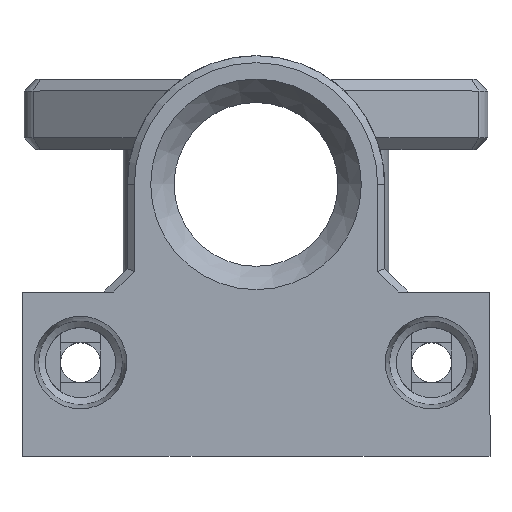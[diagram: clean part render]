
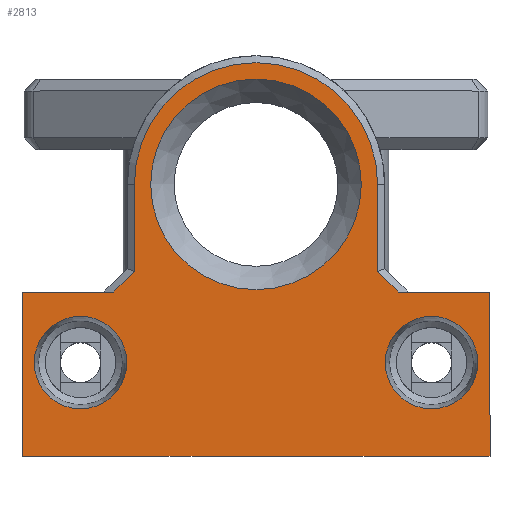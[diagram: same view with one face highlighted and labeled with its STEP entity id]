
A CAD part, top view. The second image highlights one B-rep face of the part: STEP entity #2813.
In plain terms, the highlighted planar face has unit normal (0, 0, 1).
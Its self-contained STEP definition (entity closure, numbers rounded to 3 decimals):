
#28=FACE_BOUND('',#456,.T.);
#29=FACE_BOUND('',#457,.T.);
#30=FACE_BOUND('',#458,.T.);
#163=PLANE('',#3075);
#293=FACE_OUTER_BOUND('',#455,.T.);
#455=EDGE_LOOP('',(#2378,#2379,#2380,#2381,#2382,#2383,#2384,#2385,#2386,
#2387));
#456=EDGE_LOOP('',(#2388));
#457=EDGE_LOOP('',(#2389));
#458=EDGE_LOOP('',(#2390));
#639=LINE('',#4527,#873);
#703=LINE('',#4721,#937);
#704=LINE('',#4722,#938);
#705=LINE('',#4724,#939);
#706=LINE('',#4726,#940);
#707=LINE('',#4728,#941);
#708=LINE('',#4730,#942);
#709=LINE('',#4734,#943);
#710=LINE('',#4735,#944);
#873=VECTOR('',#3544,10.);
#937=VECTOR('',#3740,10.);
#938=VECTOR('',#3741,10.);
#939=VECTOR('',#3742,10.);
#940=VECTOR('',#3743,10.);
#941=VECTOR('',#3744,10.);
#942=VECTOR('',#3745,10.);
#943=VECTOR('',#3748,10.);
#944=VECTOR('',#3749,10.);
#1045=CIRCLE('',#3023,3.952);
#1048=CIRCLE('',#3028,3.952);
#1067=CIRCLE('',#3071,9.);
#1070=CIRCLE('',#3076,10.4);
#1293=VERTEX_POINT('',#4524);
#1294=VERTEX_POINT('',#4526);
#1306=VERTEX_POINT('',#4561);
#1309=VERTEX_POINT('',#4571);
#1354=VERTEX_POINT('',#4709);
#1357=VERTEX_POINT('',#4719);
#1358=VERTEX_POINT('',#4720);
#1359=VERTEX_POINT('',#4723);
#1360=VERTEX_POINT('',#4725);
#1361=VERTEX_POINT('',#4727);
#1362=VERTEX_POINT('',#4729);
#1363=VERTEX_POINT('',#4731);
#1364=VERTEX_POINT('',#4733);
#1633=EDGE_CURVE('',#1294,#1293,#639,.T.);
#1649=EDGE_CURVE('',#1306,#1306,#1045,.T.);
#1654=EDGE_CURVE('',#1309,#1309,#1048,.T.);
#1723=EDGE_CURVE('',#1354,#1354,#1067,.T.);
#1728=EDGE_CURVE('',#1357,#1358,#703,.T.);
#1729=EDGE_CURVE('',#1358,#1294,#704,.T.);
#1730=EDGE_CURVE('',#1293,#1359,#705,.T.);
#1731=EDGE_CURVE('',#1359,#1360,#706,.T.);
#1732=EDGE_CURVE('',#1361,#1360,#707,.T.);
#1733=EDGE_CURVE('',#1362,#1361,#708,.T.);
#1734=EDGE_CURVE('',#1363,#1362,#1070,.T.);
#1735=EDGE_CURVE('',#1364,#1363,#709,.T.);
#1736=EDGE_CURVE('',#1357,#1364,#710,.T.);
#2378=ORIENTED_EDGE('',*,*,#1728,.T.);
#2379=ORIENTED_EDGE('',*,*,#1729,.T.);
#2380=ORIENTED_EDGE('',*,*,#1633,.T.);
#2381=ORIENTED_EDGE('',*,*,#1730,.T.);
#2382=ORIENTED_EDGE('',*,*,#1731,.T.);
#2383=ORIENTED_EDGE('',*,*,#1732,.F.);
#2384=ORIENTED_EDGE('',*,*,#1733,.F.);
#2385=ORIENTED_EDGE('',*,*,#1734,.F.);
#2386=ORIENTED_EDGE('',*,*,#1735,.F.);
#2387=ORIENTED_EDGE('',*,*,#1736,.F.);
#2388=ORIENTED_EDGE('',*,*,#1649,.T.);
#2389=ORIENTED_EDGE('',*,*,#1654,.T.);
#2390=ORIENTED_EDGE('',*,*,#1723,.F.);
#2813=ADVANCED_FACE('',(#293,#28,#29,#30),#163,.T.);
#3023=AXIS2_PLACEMENT_3D('',#4562,#3580,#3581);
#3028=AXIS2_PLACEMENT_3D('',#4572,#3592,#3593);
#3071=AXIS2_PLACEMENT_3D('',#4710,#3728,#3729);
#3075=AXIS2_PLACEMENT_3D('',#4718,#3738,#3739);
#3076=AXIS2_PLACEMENT_3D('',#4732,#3746,#3747);
#3544=DIRECTION('',(1.,0.,0.));
#3580=DIRECTION('center_axis',(0.,0.,-1.));
#3581=DIRECTION('ref_axis',(1.,0.,0.));
#3592=DIRECTION('center_axis',(0.,0.,-1.));
#3593=DIRECTION('ref_axis',(-1.,0.,0.));
#3728=DIRECTION('center_axis',(0.,0.,1.));
#3729=DIRECTION('ref_axis',(-1.,0.,0.));
#3738=DIRECTION('center_axis',(0.,0.,1.));
#3739=DIRECTION('ref_axis',(-1.,0.,0.));
#3740=DIRECTION('',(-1.,0.,0.));
#3741=DIRECTION('',(0.,-1.,0.));
#3742=DIRECTION('',(0.,1.,0.));
#3743=DIRECTION('',(-1.,0.,0.));
#3744=DIRECTION('',(0.707,-0.707,0.));
#3745=DIRECTION('',(0.,-1.,0.));
#3746=DIRECTION('center_axis',(0.,0.,-1.));
#3747=DIRECTION('ref_axis',(-1.,0.,0.));
#3748=DIRECTION('',(0.,1.,0.));
#3749=DIRECTION('',(0.707,0.707,0.));
#4524=CARTESIAN_POINT('',(0.,-42.533,42.875));
#4526=CARTESIAN_POINT('',(-40.,-42.533,42.875));
#4527=CARTESIAN_POINT('',(-40.,-42.533,42.875));
#4561=CARTESIAN_POINT('',(-8.952,-34.533,42.875));
#4562=CARTESIAN_POINT('Origin',(-5.,-34.533,42.875));
#4571=CARTESIAN_POINT('',(-31.048,-34.533,42.875));
#4572=CARTESIAN_POINT('Origin',(-35.,-34.533,42.875));
#4709=CARTESIAN_POINT('',(-11.,-19.3,42.875));
#4710=CARTESIAN_POINT('Origin',(-20.,-19.3,42.875));
#4718=CARTESIAN_POINT('Origin',(-20.,-25.417,42.875));
#4719=CARTESIAN_POINT('',(-32.151,-28.5,42.875));
#4720=CARTESIAN_POINT('',(-40.,-28.5,42.875));
#4721=CARTESIAN_POINT('',(0.,-28.5,42.875));
#4722=CARTESIAN_POINT('',(-40.,-28.5,42.875));
#4723=CARTESIAN_POINT('',(0.,-28.5,42.875));
#4724=CARTESIAN_POINT('',(0.,-42.533,42.875));
#4725=CARTESIAN_POINT('',(-7.849,-28.5,42.875));
#4726=CARTESIAN_POINT('',(0.,-28.5,42.875));
#4727=CARTESIAN_POINT('',(-9.6,-26.749,42.875));
#4728=CARTESIAN_POINT('',(-11.945,-24.403,42.875));
#4729=CARTESIAN_POINT('',(-9.6,-19.3,42.875));
#4730=CARTESIAN_POINT('',(-9.6,-26.958,42.875));
#4731=CARTESIAN_POINT('',(-30.4,-19.3,42.875));
#4732=CARTESIAN_POINT('Origin',(-20.,-19.3,42.875));
#4733=CARTESIAN_POINT('',(-30.4,-26.749,42.875));
#4734=CARTESIAN_POINT('',(-30.4,-22.358,42.875));
#4735=CARTESIAN_POINT('',(-28.055,-24.403,42.875));
